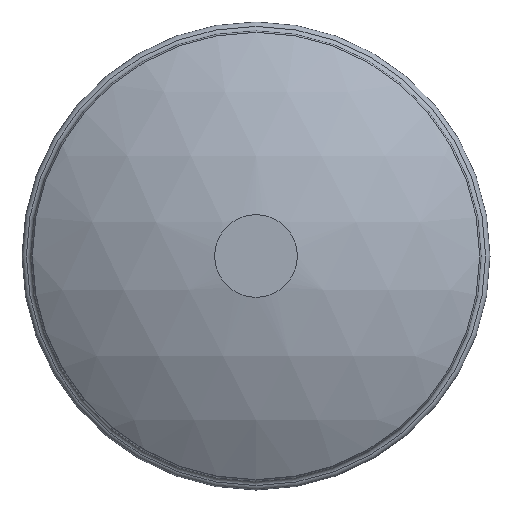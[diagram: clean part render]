
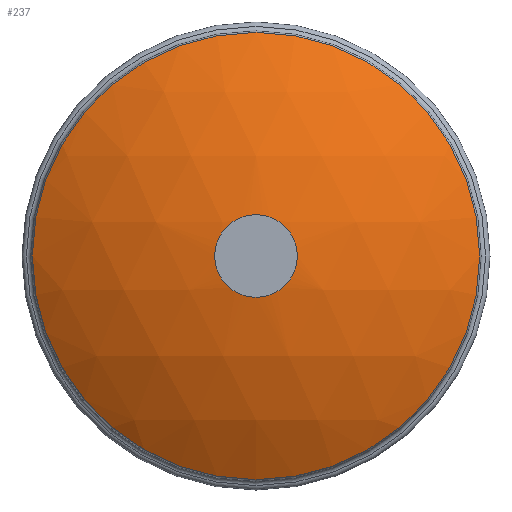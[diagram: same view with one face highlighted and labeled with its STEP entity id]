
A CAD part, left-side view. The second image highlights one B-rep face of the part: STEP entity #237.
In plain terms, the highlighted spherical face has radius 240.538 mm.
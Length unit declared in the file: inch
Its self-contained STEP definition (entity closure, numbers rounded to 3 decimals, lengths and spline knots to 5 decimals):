
#45=FACE_BOUND('',#75,.T.);
#47=SPHERICAL_SURFACE('',#284,9.47);
#62=FACE_OUTER_BOUND('',#74,.T.);
#74=EDGE_LOOP('',(#190));
#75=EDGE_LOOP('',(#191));
#90=CIRCLE('',#264,0.95);
#93=CIRCLE('',#269,5.13798);
#113=VERTEX_POINT('',#416);
#115=VERTEX_POINT('',#423);
#133=EDGE_CURVE('',#113,#113,#90,.T.);
#136=EDGE_CURVE('',#115,#115,#93,.T.);
#190=ORIENTED_EDGE('',*,*,#136,.F.);
#191=ORIENTED_EDGE('',*,*,#133,.T.);
#237=ADVANCED_FACE('',(#62,#45),#47,.T.);
#264=AXIS2_PLACEMENT_3D('',#418,#317,#318);
#269=AXIS2_PLACEMENT_3D('',#425,#327,#328);
#284=AXIS2_PLACEMENT_3D('',#450,#359,#360);
#317=DIRECTION('center_axis',(1.,0.,0.));
#318=DIRECTION('ref_axis',(0.,0.,1.));
#327=DIRECTION('center_axis',(1.,0.,0.));
#328=DIRECTION('ref_axis',(0.,0.,-1.));
#359=DIRECTION('center_axis',(0.,0.,1.));
#360=DIRECTION('ref_axis',(-1.,0.002,0.));
#416=CARTESIAN_POINT('',(0.04777,0.,-0.95));
#418=CARTESIAN_POINT('Origin',(0.04777,0.,
0.));
#423=CARTESIAN_POINT('',(1.515,-5.13798,0.));
#425=CARTESIAN_POINT('Origin',(1.515,0.,0.));
#450=CARTESIAN_POINT('Origin',(9.47,0.,0.));
